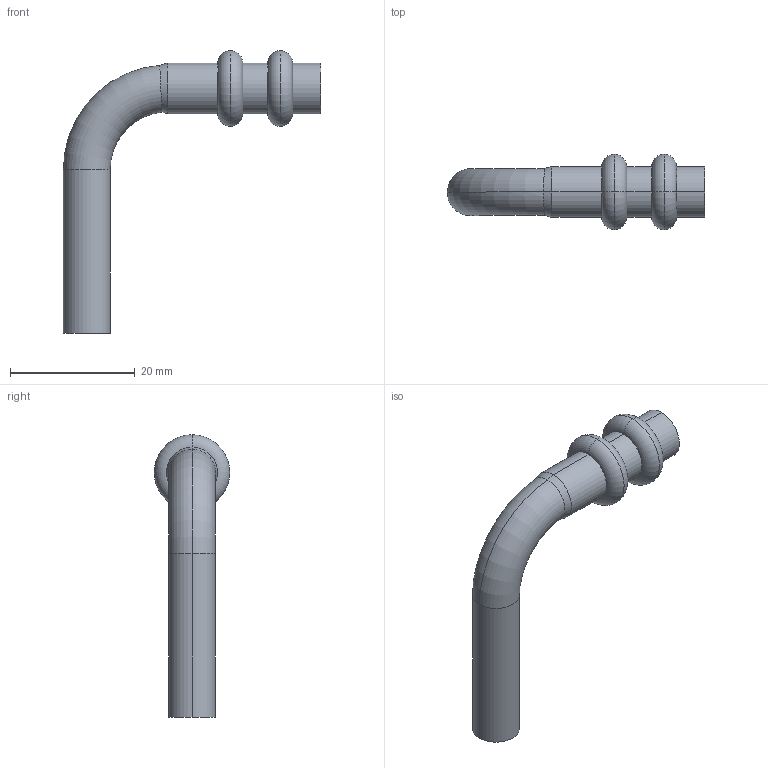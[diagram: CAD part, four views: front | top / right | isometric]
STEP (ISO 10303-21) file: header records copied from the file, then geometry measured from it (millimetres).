
FILE_DESCRIPTION(('starvars output'),'1');
FILE_NAME('cv20240422104947000011453.stp','10:49:49 2024/04/22',('Thomas Industrial Network Germany GmbH'),(' '),'Spatial InterOp 3D',' ',' ');
FILE_SCHEMA(('AUTOMOTIVE_DESIGN { 1 0 10303 214 3 1 1 }'));
Length unit declared in the file: millimetre
Products named in the file (1): 1
Bounding box: 41.26 x 12.1 x 45.3 mm (x, y, z)
Volume: 1158 mm3; surface area: 3638 mm2
Topology: 1 solids, 1 shells, 52 faces, 109 edges, 68 vertices
Faces by surface type: torus 20, cylinder 16, plane 12, cone 4
Entity records: 2084 total; most frequent: CARTESIAN_POINT 464, DIRECTION 288, ORIENTED_EDGE 218, AXIS2_PLACEMENT_3D 134, EDGE_CURVE 109, CIRCLE 81, VERTEX_POINT 68, EDGE_LOOP 63
